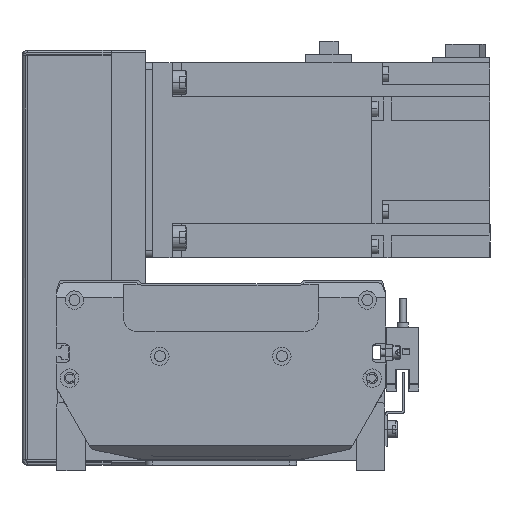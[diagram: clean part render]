
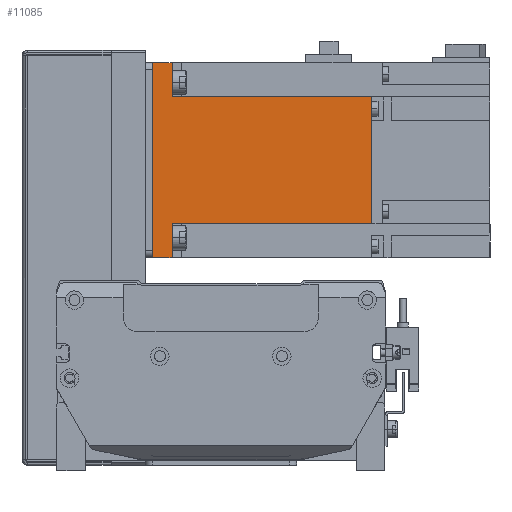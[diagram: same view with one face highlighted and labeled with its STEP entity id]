
A CAD part, front view. The second image highlights one B-rep face of the part: STEP entity #11085.
In plain terms, the highlighted planar face has unit normal (0, -1, 0) as drawn and (0, 0, -1) by its records, which use the part's own axes.
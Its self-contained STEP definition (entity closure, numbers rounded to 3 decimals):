
#125 = CARTESIAN_POINT ( 'NONE',  ( -25.95, 89.8, -40. ) ) ;
#295 = ORIENTED_EDGE ( 'NONE', *, *, #20530, .F. ) ;
#858 = VERTEX_POINT ( 'NONE', #31890 ) ;
#2063 = LINE ( 'NONE', #20414, #16400 ) ;
#3253 = DIRECTION ( 'NONE',  ( -1., 0., 0. ) ) ;
#3353 = LINE ( 'NONE', #51182, #33273 ) ;
#5097 = EDGE_CURVE ( 'NONE', #40054, #10307, #20326, .T. ) ;
#5247 = EDGE_CURVE ( 'NONE', #17358, #12774, #10404, .T. ) ;
#5647 = DIRECTION ( 'NONE',  ( 0., -1., 0. ) ) ;
#6432 = CARTESIAN_POINT ( 'NONE',  ( 40., 8., -40. ) ) ;
#6788 = LINE ( 'NONE', #6432, #31706 ) ;
#8130 = LINE ( 'NONE', #51484, #46740 ) ;
#9698 = CARTESIAN_POINT ( 'NONE',  ( 40., 8., -40. ) ) ;
#10278 = ORIENTED_EDGE ( 'NONE', *, *, #31703, .T. ) ;
#10307 = VERTEX_POINT ( 'NONE', #9698 ) ;
#10404 = LINE ( 'NONE', #26548, #38353 ) ;
#10756 = DIRECTION ( 'NONE',  ( 0., 1., 0. ) ) ;
#11085 = ADVANCED_FACE ( 'NONE', ( #17583 ), #16043, .F. ) ;
#12737 = DIRECTION ( 'NONE',  ( 0., 0., 1. ) ) ;
#12774 = VERTEX_POINT ( 'NONE', #41453 ) ;
#15454 = ORIENTED_EDGE ( 'NONE', *, *, #45741, .F. ) ;
#16043 = PLANE ( 'NONE',  #27476 ) ;
#16370 = CARTESIAN_POINT ( 'NONE',  ( 40., 89.8, -40. ) ) ;
#16400 = VECTOR ( 'NONE', #24898, 1000. ) ;
#17358 = VERTEX_POINT ( 'NONE', #17800 ) ;
#17440 = CARTESIAN_POINT ( 'NONE',  ( -25.95, 89.8, -40. ) ) ;
#17583 = FACE_OUTER_BOUND ( 'NONE', #41608, .T. ) ;
#17800 = CARTESIAN_POINT ( 'NONE',  ( -40., 0., -40. ) ) ;
#20326 = LINE ( 'NONE', #45622, #32189 ) ;
#20414 = CARTESIAN_POINT ( 'NONE',  ( 25.95, 89.8, -40. ) ) ;
#20530 = EDGE_CURVE ( 'NONE', #36366, #12774, #34943, .T. ) ;
#21897 = ORIENTED_EDGE ( 'NONE', *, *, #28927, .F. ) ;
#22264 = EDGE_CURVE ( 'NONE', #10307, #31812, #6788, .T. ) ;
#23066 = VECTOR ( 'NONE', #39153, 1000. ) ;
#24898 = DIRECTION ( 'NONE',  ( 0., 1., 0. ) ) ;
#25289 = EDGE_CURVE ( 'NONE', #858, #50201, #3353, .T. ) ;
#26178 = CARTESIAN_POINT ( 'NONE',  ( 40., 0., -40. ) ) ;
#26548 = CARTESIAN_POINT ( 'NONE',  ( -40., 89.8, -40. ) ) ;
#27476 = AXIS2_PLACEMENT_3D ( 'NONE', #16370, #12737, #44280 ) ;
#27931 = ORIENTED_EDGE ( 'NONE', *, *, #22264, .F. ) ;
#28094 = DIRECTION ( 'NONE',  ( -1., 0., 0. ) ) ;
#28927 = EDGE_CURVE ( 'NONE', #31812, #858, #2063, .T. ) ;
#31703 = EDGE_CURVE ( 'NONE', #40054, #17358, #8130, .T. ) ;
#31706 = VECTOR ( 'NONE', #49996, 1000. ) ;
#31812 = VERTEX_POINT ( 'NONE', #42347 ) ;
#31890 = CARTESIAN_POINT ( 'NONE',  ( 25.95, 89.8, -40. ) ) ;
#32189 = VECTOR ( 'NONE', #44897, 1000. ) ;
#33273 = VECTOR ( 'NONE', #3253, 1000. ) ;
#34568 = CARTESIAN_POINT ( 'NONE',  ( -25.95, 8., -40. ) ) ;
#34655 = ORIENTED_EDGE ( 'NONE', *, *, #25289, .F. ) ;
#34804 = LINE ( 'NONE', #17440, #47975 ) ;
#34943 = LINE ( 'NONE', #43505, #23066 ) ;
#36366 = VERTEX_POINT ( 'NONE', #34568 ) ;
#36762 = ORIENTED_EDGE ( 'NONE', *, *, #5097, .F. ) ;
#38353 = VECTOR ( 'NONE', #10756, 1000. ) ;
#39153 = DIRECTION ( 'NONE',  ( -1., 0., 0. ) ) ;
#40054 = VERTEX_POINT ( 'NONE', #26178 ) ;
#41453 = CARTESIAN_POINT ( 'NONE',  ( -40., 8., -40. ) ) ;
#41608 = EDGE_LOOP ( 'NONE', ( #27931, #36762, #10278, #51078, #295, #15454, #34655, #21897 ) ) ;
#42347 = CARTESIAN_POINT ( 'NONE',  ( 25.95, 8., -40. ) ) ;
#43505 = CARTESIAN_POINT ( 'NONE',  ( 40., 8., -40. ) ) ;
#44280 = DIRECTION ( 'NONE',  ( 1., 0., 0. ) ) ;
#44897 = DIRECTION ( 'NONE',  ( 0., 1., 0. ) ) ;
#45622 = CARTESIAN_POINT ( 'NONE',  ( 40., 89.8, -40. ) ) ;
#45741 = EDGE_CURVE ( 'NONE', #50201, #36366, #34804, .T. ) ;
#46740 = VECTOR ( 'NONE', #28094, 1000. ) ;
#47975 = VECTOR ( 'NONE', #5647, 1000. ) ;
#49996 = DIRECTION ( 'NONE',  ( -1., 0., 0. ) ) ;
#50201 = VERTEX_POINT ( 'NONE', #125 ) ;
#51078 = ORIENTED_EDGE ( 'NONE', *, *, #5247, .T. ) ;
#51182 = CARTESIAN_POINT ( 'NONE',  ( 40., 89.8, -40. ) ) ;
#51484 = CARTESIAN_POINT ( 'NONE',  ( 0., 0., -40. ) ) ;
